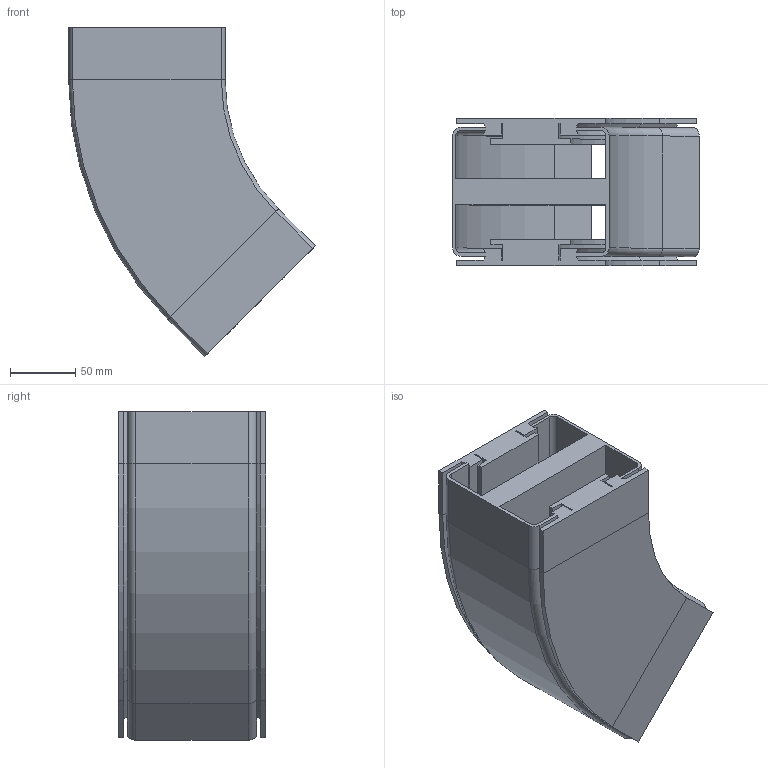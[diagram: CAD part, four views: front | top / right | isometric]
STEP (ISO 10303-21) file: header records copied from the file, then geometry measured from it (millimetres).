
FILE_DESCRIPTION (( 'STEP AP214' ), '1' );
FILE_NAME ('VC.120 Horizontale bochtsectie.R200 45.STEP', '2017-02-08T07:48:14', ( '' ), ( '' ), 'SwSTEP 2.0', 'SolidWorks 2016', '' );
FILE_SCHEMA (( 'AUTOMOTIVE_DESIGN' ));
Length unit declared in the file: millimetre
Products named in the file (1): VC.120 Horizontale bochtsectie.R200 45
Bounding box: 189.29 x 113 x 252.13 mm (x, y, z)
Volume: 1397852.4 mm3; surface area: 349798.3 mm2
Topology: 1 solids, 1 shells, 206 faces, 476 edges, 272 vertices
Faces by surface type: plane 152, cylinder 38, cone 8, torus 8
Entity records: 5674 total; most frequent: DIRECTION 990, CARTESIAN_POINT 955, ORIENTED_EDGE 952, EDGE_CURVE 476, VECTOR 376, LINE 376, AXIS2_PLACEMENT_3D 307, VERTEX_POINT 272
